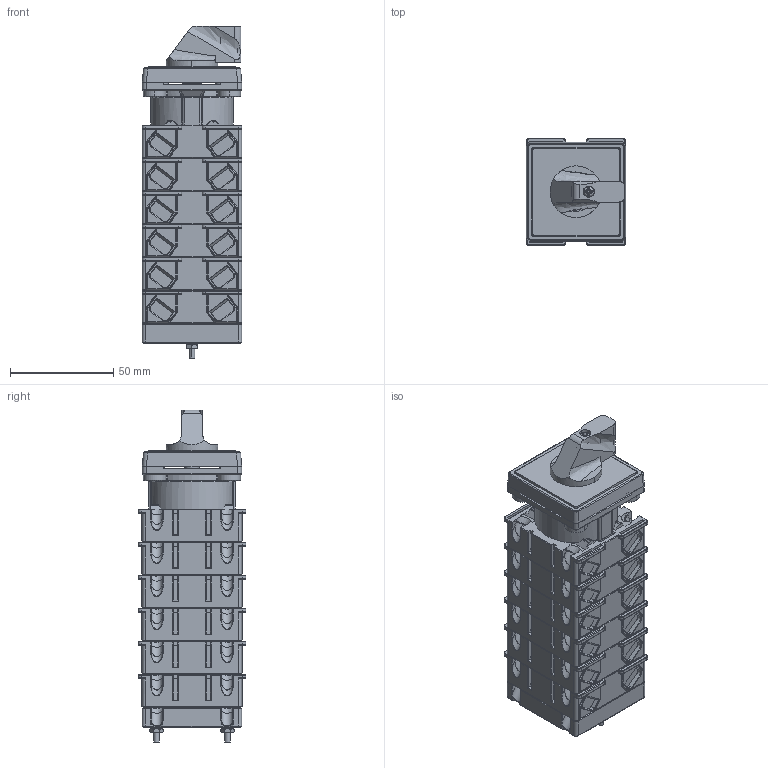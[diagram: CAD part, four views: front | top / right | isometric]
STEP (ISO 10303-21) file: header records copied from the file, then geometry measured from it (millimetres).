
FILE_DESCRIPTION (( 'STEP AP214' ), '1' );
FILE_NAME ('Ïåðåêëþ÷àòåëü 4G16, 25-XXXX-U-R114 ÃÆÈÊ.642212 6ê.STEP', '2024-07-31T08:13:31', ( '' ), ( '' ), 'SwSTEP 2.0', 'SolidWorks 2018', '' );
FILE_SCHEMA (( 'AUTOMOTIVE_DESIGN' ));
Length unit declared in the file: millimetre
Products named in the file (1): Ïåðåêëþ÷àòåëü 4G16, 25-XXXX-U-R114 ÃÆÈÊ.642212 6ê
Bounding box: 48 x 52 x 160.6 mm (x, y, z)
Volume: 269730.9 mm3; surface area: 114434.9 mm2
Topology: 26 solids, 74 shells, 6438 faces, 16899 edges, 10698 vertices
Faces by surface type: plane 3709, cylinder 1955, torus 320, cone 279, bspline 111, sphere 64
Entity records: 279204 total; most frequent: CARTESIAN_POINT 51317, ORIENTED_EDGE 33684, DIRECTION 31759, EDGE_CURVE 16842, VECTOR 11645, LINE 11645, VERTEX_POINT 10686, AXIS2_PLACEMENT_3D 10057
